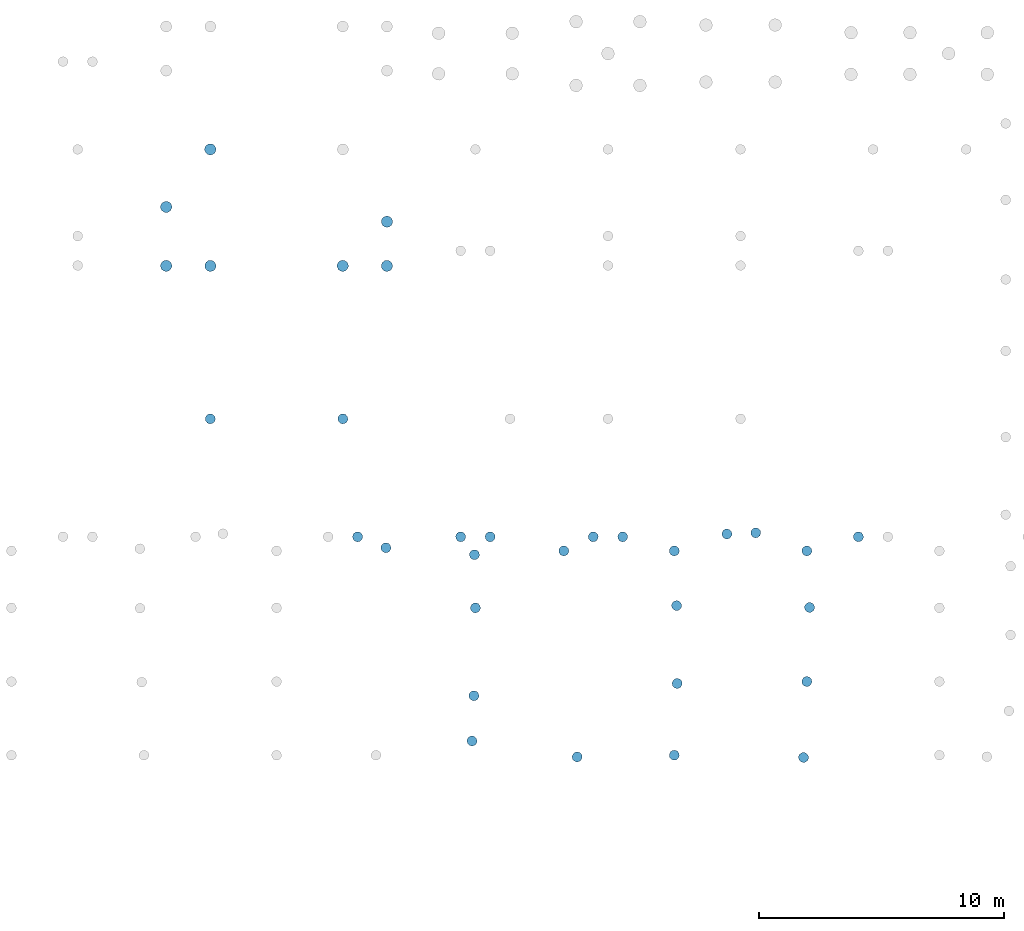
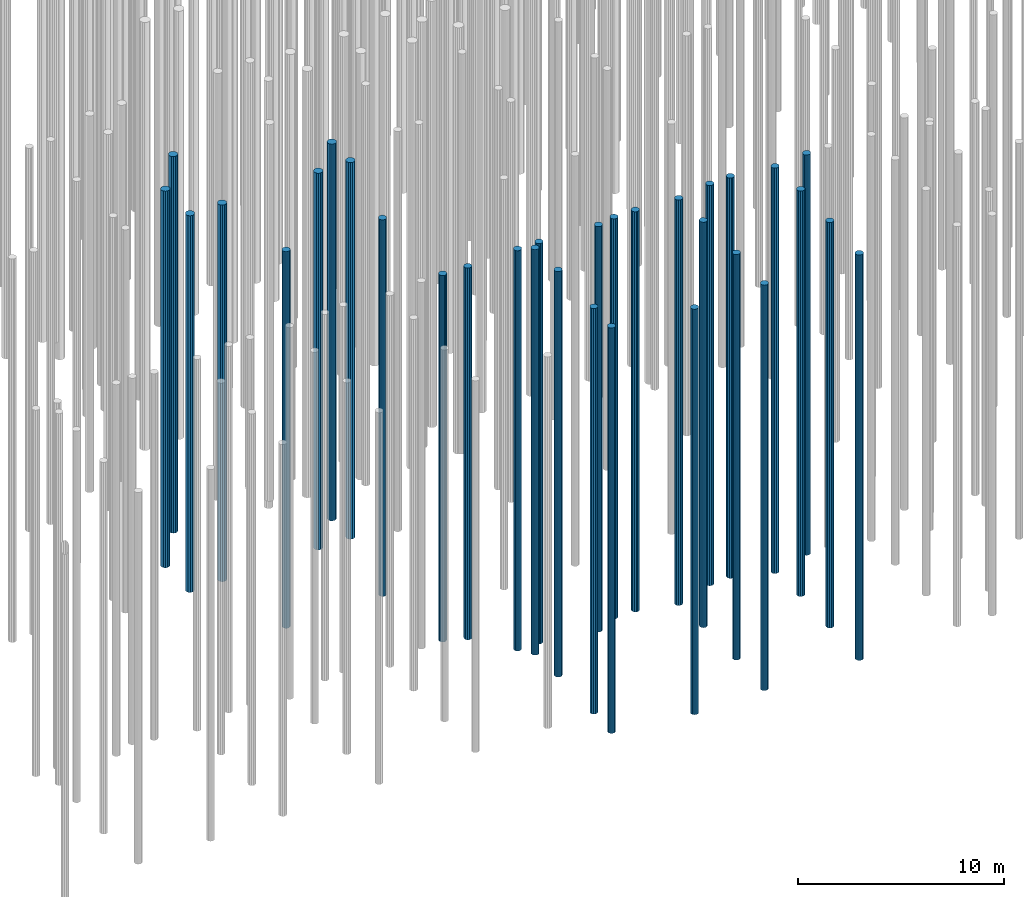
# One storey, part 11 of 20: 32 piles.
"""IFC2X3 building model written with IfcOpenShell, lengths in millimetres."""

from ifc_helpers import new_model, entity, si_unit, converted_unit, derived_unit, direction, frame, origin, place, context, subcontext, project, spatial, polyline, outline, extrude, material, element, save


model = new_model("IFC2X3")

# Units and contexts
model_context = context("Model", 3, precision=0.01, world=origin(), true_north=direction((6.12303176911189e-17, 1.0)))
body_context = subcontext(model_context, "Body", "Model", "MODEL_VIEW")
ifc_project = project(units=[si_unit("LENGTHUNIT", "METRE", prefix="MILLI"), si_unit("AREAUNIT", "SQUARE_METRE"), si_unit("VOLUMEUNIT", "CUBIC_METRE"), converted_unit("PLANEANGLEUNIT", "DEGREE", entity("IfcRatioMeasure", 0.0174532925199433), si_unit("PLANEANGLEUNIT", "RADIAN"), dimensions=[0, 0, 0, 0, 0, 0, 0]), si_unit("MASSUNIT", "GRAM", prefix="KILO"), derived_unit("MASSDENSITYUNIT", [(si_unit("MASSUNIT", "GRAM", prefix="KILO"), 1), (si_unit("LENGTHUNIT", "METRE"), -3)]), si_unit("TIMEUNIT", "SECOND"), si_unit("FREQUENCYUNIT", "HERTZ"), si_unit("THERMODYNAMICTEMPERATUREUNIT", "DEGREE_CELSIUS"), derived_unit("THERMALTRANSMITTANCEUNIT", [(si_unit("MASSUNIT", "GRAM", prefix="KILO"), 1), (si_unit("THERMODYNAMICTEMPERATUREUNIT", "KELVIN"), -1), (si_unit("TIMEUNIT", "SECOND"), -3)]), derived_unit("VOLUMETRICFLOWRATEUNIT", [(si_unit("LENGTHUNIT", "METRE"), 3), (si_unit("TIMEUNIT", "SECOND"), -1)]), si_unit("ELECTRICCURRENTUNIT", "AMPERE"), si_unit("ELECTRICVOLTAGEUNIT", "VOLT"), si_unit("POWERUNIT", "WATT"), si_unit("FORCEUNIT", "NEWTON", prefix="KILO"), si_unit("ILLUMINANCEUNIT", "LUX"), si_unit("LUMINOUSFLUXUNIT", "LUMEN"), si_unit("LUMINOUSINTENSITYUNIT", "CANDELA"), derived_unit("USERDEFINED", [(si_unit("MASSUNIT", "GRAM", prefix="KILO"), -1), (si_unit("LENGTHUNIT", "METRE"), -2), (si_unit("TIMEUNIT", "SECOND"), 3), (si_unit("LUMINOUSFLUXUNIT", "LUMEN"), 1)]), derived_unit("LINEARVELOCITYUNIT", [(si_unit("LENGTHUNIT", "METRE"), 1), (si_unit("TIMEUNIT", "SECOND"), -1)]), si_unit("PRESSUREUNIT", "PASCAL"), derived_unit("USERDEFINED", [(si_unit("LENGTHUNIT", "METRE"), -2), (si_unit("MASSUNIT", "GRAM", prefix="KILO"), 1), (si_unit("TIMEUNIT", "SECOND"), -2)])], contexts=[model_context])

# Site, building, storey
site_placement = place(None, origin())
site = spatial("IfcSite", under=ifc_project, at=site_placement, Name="Default", CompositionType="ELEMENT")
building_placement = place(site_placement, origin())
building = spatial("IfcBuilding", under=site, at=building_placement, Name="niet gebruiken", CompositionType="ELEMENT")
storey_placement = place(building_placement, frame((0.0, 0.0, -4000.0)))
storey = spatial("IfcBuildingStorey", under=building, at=storey_placement, Name="Level t.b.v. palenplan", CompositionType="ELEMENT", Elevation=-4000.0)

# Piles
ifc_material = material(Name="NLRS_f2_beton ihwg")
pile_1_placement = place(storey_placement, origin())
element("IfcPile", 1, at=pile_1_placement, inside=storey, material=ifc_material, Name="NLRS_17.12_SFO_TLB_funderingspaal grondverdringend_gen:Fundex_r410/500", ObjectType="NLRS_17.12_SFO_TLB_funderingspaal grondverdringend_gen:Fundex_r410/500", context=body_context, shape_type="SweptSolid", body=[
    extrude(outline(polyline([(-49.0597111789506, -199.043072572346), (49.0597111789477, -199.043072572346), (135.940144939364, -153.44470337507), (191.678329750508, -72.6940018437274), (203.505319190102, 24.7100194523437), (168.711692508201, 116.453273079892), (95.2682502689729, 181.518485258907), (49.0597111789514, 199.043072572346), (-49.059711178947, 199.043072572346), (-135.940144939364, 153.44470337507), (-191.678329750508, 72.6940018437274), (-203.505319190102, -24.7100194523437), (-168.711692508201, -116.453273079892), (-95.2682502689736, -181.518485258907), (-49.0597111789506, -199.043072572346)])), frame((80860.4417648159, 878.881426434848, -21100.0), z_axis=(0.0, 0.0, 1.0), x_axis=(0.239315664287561, -0.970941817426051, 0.0)), (0.0, 0.0, 1.0), 24028.0),
])
pile_2_placement = place(storey_placement, origin())
element("IfcPile", 2, at=pile_2_placement, inside=storey, material=ifc_material, Name="NLRS_17.12_SFO_TLB_funderingspaal grondverdringend_gen:Fundex_r410/500", ObjectType="NLRS_17.12_SFO_TLB_funderingspaal grondverdringend_gen:Fundex_r410/500", context=body_context, shape_type="SweptSolid", body=[
    extrude(outline(polyline([(-49.0597111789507, -199.043072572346), (49.0597111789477, -199.043072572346), (135.940144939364, -153.44470337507), (191.678329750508, -72.6940018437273), (203.505319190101, 24.7100194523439), (168.711692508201, 116.453273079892), (95.2682502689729, 181.518485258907), (49.0597111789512, 199.043072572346), (-49.0597111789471, 199.043072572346), (-135.940144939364, 153.44470337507), (-191.678329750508, 72.6940018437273), (-203.505319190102, -24.7100194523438), (-168.711692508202, -116.453273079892), (-95.2682502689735, -181.518485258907), (-49.0597111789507, -199.043072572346)])), frame((85143.7061185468, 229.846462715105, -21100.0), z_axis=(0.0, 0.0, 1.0), x_axis=(0.239315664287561, -0.970941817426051, 0.0)), (0.0, 0.0, 1.0), 24028.0),
])
pile_3_placement = place(storey_placement, origin())
element("IfcPile", 3, at=pile_3_placement, inside=storey, material=ifc_material, Name="NLRS_17.12_SFO_TLB_funderingspaal grondverdringend_gen:Fundex_r410/500", ObjectType="NLRS_17.12_SFO_TLB_funderingspaal grondverdringend_gen:Fundex_r410/500", context=body_context, shape_type="SweptSolid", body=[
    extrude(outline(polyline([(-49.0597111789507, -199.043072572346), (49.0597111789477, -199.043072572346), (135.940144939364, -153.44470337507), (191.678329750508, -72.6940018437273), (203.505319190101, 24.7100194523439), (168.711692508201, 116.453273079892), (95.2682502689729, 181.518485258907), (49.0597111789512, 199.043072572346), (-49.0597111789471, 199.043072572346), (-135.940144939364, 153.44470337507), (-191.678329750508, 72.6940018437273), (-203.505319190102, -24.7100194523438), (-168.711692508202, -116.453273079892), (-95.2682502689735, -181.518485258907), (-49.0597111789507, -199.043072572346)])), frame((89100.0, 300.0, -21100.0), z_axis=(0.0, 0.0, 1.0), x_axis=(0.239315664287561, -0.970941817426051, 0.0)), (0.0, 0.0, 1.0), 24028.0),
])
pile_4_placement = place(storey_placement, origin())
element("IfcPile", 4, at=pile_4_placement, inside=storey, material=ifc_material, Name="NLRS_17.12_SFO_TLB_funderingspaal grondverdringend_gen:Fundex_r410/500", ObjectType="NLRS_17.12_SFO_TLB_funderingspaal grondverdringend_gen:Fundex_r410/500", context=body_context, shape_type="SweptSolid", body=[
    extrude(outline(polyline([(-49.0597111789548, -199.043072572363), (49.0597111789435, -199.043072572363), (135.94014493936, -153.444703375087), (191.678329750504, -72.6940018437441), (203.505319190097, 24.7100194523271), (168.711692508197, 116.453273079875), (95.2682502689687, 181.518485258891), (49.0597111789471, 199.043072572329), (-49.0597111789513, 199.043072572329), (-135.940144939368, 153.444703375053), (-191.678329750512, 72.6940018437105), (-203.505319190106, -24.7100194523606), (-168.711692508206, -116.453273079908), (-95.2682502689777, -181.518485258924), (-49.0597111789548, -199.043072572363)])), frame((94365.3624429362, 205.615963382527, -21100.0), z_axis=(0.0, 0.0, 1.0), x_axis=(0.239315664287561, -0.970941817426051, 0.0)), (0.0, 0.0, 1.0), 24028.0),
])
pile_5_placement = place(storey_placement, origin())
element("IfcPile", 5, at=pile_5_placement, inside=storey, material=ifc_material, Name="NLRS_17.12_SFO_TLB_funderingspaal grondverdringend_gen:Fundex_r410/500", ObjectType="NLRS_17.12_SFO_TLB_funderingspaal grondverdringend_gen:Fundex_r410/500", context=body_context, shape_type="SweptSolid", body=[
    extrude(outline(polyline([(-49.059711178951, -199.043072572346), (49.059711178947, -199.043072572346), (135.940144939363, -153.44470337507), (191.678329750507, -72.6940018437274), (203.505319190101, 24.7100194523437), (168.711692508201, 116.453273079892), (95.2682502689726, 181.518485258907), (49.059711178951, 199.043072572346), (-49.0597111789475, 199.043072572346), (-135.940144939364, 153.44470337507), (-191.678329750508, 72.6940018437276), (-203.505319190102, -24.7100194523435), (-168.711692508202, -116.453273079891), (-95.2682502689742, -181.518485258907), (-49.059711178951, -199.043072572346)])), frame((80938.6666666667, 2719.56666666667, -21100.0), z_axis=(0.0, 0.0, 1.0), x_axis=(0.239315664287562, -0.970941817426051, 0.0)), (0.0, 0.0, 1.0), 24028.0),
])
pile_6_placement = place(storey_placement, origin())
element("IfcPile", 6, at=pile_6_placement, inside=storey, material=ifc_material, Name="NLRS_17.12_SFO_TLB_funderingspaal grondverdringend_gen:Fundex_r410/500", ObjectType="NLRS_17.12_SFO_TLB_funderingspaal grondverdringend_gen:Fundex_r410/500", context=body_context, shape_type="SweptSolid", body=[
    extrude(outline(polyline([(-49.0597111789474, -199.043072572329), (49.0597111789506, -199.043072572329), (135.940144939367, -153.444703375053), (191.678329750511, -72.6940018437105), (203.505319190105, 24.7100194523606), (168.711692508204, 116.453273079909), (95.2682502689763, 181.518485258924), (49.0597111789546, 199.043072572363), (-49.0597111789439, 199.043072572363), (-135.94014493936, 153.444703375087), (-191.678329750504, 72.6940018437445), (-203.505319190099, -24.7100194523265), (-168.711692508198, -116.453273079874), (-95.2682502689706, -181.51848525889), (-49.0597111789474, -199.043072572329)])), frame((89217.7335670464, 3221.1560035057, -21100.0), z_axis=(0.0, 0.0, 1.0), x_axis=(0.239315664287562, -0.970941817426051, 0.0)), (0.0, 0.0, 1.0), 24028.0),
])
pile_7_placement = place(storey_placement, origin())
element("IfcPile", 7, at=pile_7_placement, inside=storey, material=ifc_material, Name="NLRS_17.12_SFO_TLB_funderingspaal grondverdringend_gen:Fundex_r410/500", ObjectType="NLRS_17.12_SFO_TLB_funderingspaal grondverdringend_gen:Fundex_r410/500", context=body_context, shape_type="SweptSolid", body=[
    extrude(outline(polyline([(-49.059711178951, -199.043072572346), (49.059711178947, -199.043072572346), (135.940144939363, -153.44470337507), (191.678329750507, -72.6940018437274), (203.505319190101, 24.7100194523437), (168.711692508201, 116.453273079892), (95.2682502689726, 181.518485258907), (49.059711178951, 199.043072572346), (-49.0597111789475, 199.043072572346), (-135.940144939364, 153.44470337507), (-191.678329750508, 72.6940018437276), (-203.505319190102, -24.7100194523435), (-168.711692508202, -116.453273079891), (-95.2682502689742, -181.518485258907), (-49.059711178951, -199.043072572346)])), frame((94500.0, 3300.0, -21100.0), z_axis=(0.0, 0.0, 1.0), x_axis=(0.239315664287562, -0.970941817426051, 0.0)), (0.0, 0.0, 1.0), 24028.0),
])
pile_8_placement = place(storey_placement, origin())
element("IfcPile", 8, at=pile_8_placement, inside=storey, material=ifc_material, Name="NLRS_17.12_SFO_TLB_funderingspaal grondverdringend_gen:Fundex_r410/500", ObjectType="NLRS_17.12_SFO_TLB_funderingspaal grondverdringend_gen:Fundex_r410/500", context=body_context, shape_type="SweptSolid", body=[
    extrude(outline(polyline([(-49.0597111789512, -199.043072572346), (49.0597111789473, -199.043072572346), (135.940144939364, -153.44470337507), (191.678329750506, -72.694001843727), (203.5053191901, 24.7100194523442), (168.711692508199, 116.453273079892), (95.2682502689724, 181.518485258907), (49.0597111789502, 199.043072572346), (-49.0597111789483, 199.043072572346), (-135.940144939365, 153.44470337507), (-191.678329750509, 72.6940018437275), (-203.505319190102, -24.7100194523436), (-168.711692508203, -116.453273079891), (-95.2682502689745, -181.518485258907), (-49.0597111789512, -199.043072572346)])), frame((81000.0, 6300.0, -21100.0), z_axis=(0.0, 0.0, 1.0), x_axis=(0.239315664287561, -0.970941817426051, 0.0)), (0.0, 0.0, 1.0), 24028.0),
])
pile_9_placement = place(storey_placement, origin())
element("IfcPile", 9, at=pile_9_placement, inside=storey, material=ifc_material, Name="NLRS_17.12_SFO_TLB_funderingspaal grondverdringend_gen:Fundex_r410/500", ObjectType="NLRS_17.12_SFO_TLB_funderingspaal grondverdringend_gen:Fundex_r410/500", context=body_context, shape_type="SweptSolid", body=[
    extrude(outline(polyline([(-49.0597111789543, -199.043072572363), (49.0597111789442, -199.043072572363), (135.94014493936, -153.444703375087), (191.678329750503, -72.6940018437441), (203.505319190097, 24.7100194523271), (168.711692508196, 116.453273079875), (95.2682502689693, 181.51848525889), (49.0597111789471, 199.043072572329), (-49.0597111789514, 199.043072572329), (-135.940144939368, 153.444703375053), (-191.678329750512, 72.6940018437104), (-203.505319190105, -24.7100194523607), (-168.711692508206, -116.453273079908), (-95.2682502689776, -181.518485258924), (-49.0597111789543, -199.043072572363)])), frame((89194.9933739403, 6392.86499300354, -21100.0), z_axis=(0.0, 0.0, 1.0), x_axis=(0.239315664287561, -0.970941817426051, 0.0)), (0.0, 0.0, 1.0), 24028.0),
])
pile_10_placement = place(storey_placement, origin())
element("IfcPile", 10, at=pile_10_placement, inside=storey, material=ifc_material, Name="NLRS_17.12_SFO_TLB_funderingspaal grondverdringend_gen:Fundex_r410/500", ObjectType="NLRS_17.12_SFO_TLB_funderingspaal grondverdringend_gen:Fundex_r410/500", context=body_context, shape_type="SweptSolid", body=[
    extrude(outline(polyline([(-49.0597111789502, -199.043072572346), (49.0597111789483, -199.043072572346), (135.940144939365, -153.44470337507), (191.678329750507, -72.6940018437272), (203.505319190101, 24.7100194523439), (168.7116925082, 116.453273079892), (95.2682502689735, 181.518485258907), (49.0597111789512, 199.043072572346), (-49.0597111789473, 199.043072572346), (-135.940144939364, 153.44470337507), (-191.678329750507, 72.6940018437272), (-203.505319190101, -24.7100194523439), (-168.711692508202, -116.453273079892), (-95.2682502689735, -181.518485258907), (-49.0597111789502, -199.043072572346)])), frame((94611.7444556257, 6316.73895963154, -21100.0), z_axis=(0.0, 0.0, 1.0), x_axis=(0.239315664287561, -0.970941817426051, 0.0)), (0.0, 0.0, 1.0), 24028.0),
])
pile_11_placement = place(storey_placement, origin())
element("IfcPile", 11, at=pile_11_placement, inside=storey, material=ifc_material, Name="NLRS_17.12_SFO_TLB_funderingspaal grondverdringend_gen:Fundex_r410/500", ObjectType="NLRS_17.12_SFO_TLB_funderingspaal grondverdringend_gen:Fundex_r410/500", context=body_context, shape_type="SweptSolid", body=[
    extrude(outline(polyline([(-49.0597111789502, -199.043072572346), (49.0597111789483, -199.043072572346), (135.940144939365, -153.44470337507), (191.678329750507, -72.6940018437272), (203.505319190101, 24.7100194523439), (168.7116925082, 116.453273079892), (95.2682502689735, 181.518485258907), (49.0597111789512, 199.043072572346), (-49.0597111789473, 199.043072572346), (-135.940144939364, 153.44470337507), (-191.678329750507, 72.6940018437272), (-203.505319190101, -24.7100194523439), (-168.711692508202, -116.453273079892), (-95.2682502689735, -181.518485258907), (-49.0597111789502, -199.043072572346)])), frame((89100.0, 8621.0, -21100.0), z_axis=(0.0, 0.0, 1.0), x_axis=(0.239315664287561, -0.970941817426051, 0.0)), (0.0, 0.0, 1.0), 24028.0),
])
pile_12_placement = place(storey_placement, origin())
element("IfcPile", 12, at=pile_12_placement, inside=storey, material=ifc_material, Name="NLRS_17.12_SFO_TLB_funderingspaal grondverdringend_gen:Fundex_r410/500", ObjectType="NLRS_17.12_SFO_TLB_funderingspaal grondverdringend_gen:Fundex_r410/500", context=body_context, shape_type="SweptSolid", body=[
    extrude(outline(polyline([(-49.0597111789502, -199.043072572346), (49.0597111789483, -199.043072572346), (135.940144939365, -153.44470337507), (191.678329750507, -72.6940018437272), (203.505319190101, 24.7100194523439), (168.7116925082, 116.453273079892), (95.2682502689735, 181.518485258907), (49.0597111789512, 199.043072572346), (-49.0597111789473, 199.043072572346), (-135.940144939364, 153.44470337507), (-191.678329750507, 72.6940018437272), (-203.505319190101, -24.7100194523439), (-168.711692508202, -116.453273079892), (-95.2682502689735, -181.518485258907), (-49.0597111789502, -199.043072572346)])), frame((94500.0, 8621.0, -21100.0), z_axis=(0.0, 0.0, 1.0), x_axis=(0.239315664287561, -0.970941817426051, 0.0)), (0.0, 0.0, 1.0), 24028.0),
])
pile_13_placement = place(storey_placement, origin())
element("IfcPile", 13, at=pile_13_placement, inside=storey, material=ifc_material, Name="NLRS_17.12_SFO_TLB_funderingspaal grondverdringend_gen:Fundex_r410/500", ObjectType="NLRS_17.12_SFO_TLB_funderingspaal grondverdringend_gen:Fundex_r410/500", context=body_context, shape_type="SweptSolid", body=[
    extrude(outline(polyline([(-49.0597111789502, -199.043072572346), (49.0597111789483, -199.043072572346), (135.940144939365, -153.44470337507), (191.678329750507, -72.6940018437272), (203.505319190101, 24.7100194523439), (168.7116925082, 116.453273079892), (95.2682502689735, 181.518485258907), (49.0597111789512, 199.043072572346), (-49.0597111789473, 199.043072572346), (-135.940144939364, 153.44470337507), (-191.678329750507, 72.6940018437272), (-203.505319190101, -24.7100194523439), (-168.711692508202, -116.453273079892), (-95.2682502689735, -181.518485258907), (-49.0597111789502, -199.043072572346)])), frame((80960.0463084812, 8465.78234333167, -21100.0), z_axis=(0.0, 0.0, 1.0), x_axis=(0.239315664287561, -0.970941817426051, 0.0)), (0.0, 0.0, 1.0), 24028.0),
])
pile_14_placement = place(storey_placement, origin())
element("IfcPile", 14, at=pile_14_placement, inside=storey, material=ifc_material, Name="NLRS_17.12_SFO_TLB_funderingspaal grondverdringend_gen:Fundex_r460/560", ObjectType="NLRS_17.12_SFO_TLB_funderingspaal grondverdringend_gen:Fundex_r460/560", context=body_context, shape_type="SweptSolid", body=[
    extrude(outline(polyline([(-25.7518295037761, -228.553808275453), (25.7518295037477, -228.553808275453), (122.367377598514, -194.746565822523), (194.746565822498, -122.367377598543), (228.553808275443, -25.7518295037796), (217.093165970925, 75.9641842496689), (162.634559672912, 162.634559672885), (75.9641842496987, 217.09316597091), (25.7518295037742, 228.553808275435), (-25.7518295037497, 228.553808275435), (-122.367377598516, 194.746565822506), (-194.7465658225, 122.367377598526), (-228.553808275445, 25.7518295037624), (-217.093165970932, -75.9641842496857), (-162.634559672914, -162.634559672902), (-75.9641842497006, -217.093165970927), (-25.7518295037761, -228.553808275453)])), frame((70205.0, 20231.0, -20100.0), z_axis=(0.0, 0.0, 1.0), x_axis=(0.111964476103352, -0.993712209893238, 0.0)), (0.0, 0.0, 1.0), 22320.0),
])
pile_15_placement = place(storey_placement, origin())
element("IfcPile", 15, at=pile_15_placement, inside=storey, material=ifc_material, Name="NLRS_17.12_SFO_TLB_funderingspaal grondverdringend_gen:Fundex_r460/560", ObjectType="NLRS_17.12_SFO_TLB_funderingspaal grondverdringend_gen:Fundex_r460/560", context=body_context, shape_type="SweptSolid", body=[
    extrude(outline(polyline([(-25.7518295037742, -228.553808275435), (25.7518295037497, -228.553808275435), (122.367377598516, -194.746565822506), (194.7465658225, -122.367377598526), (228.553808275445, -25.7518295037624), (217.093165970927, 75.9641842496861), (162.634559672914, 162.634559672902), (75.9641842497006, 217.093165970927), (25.7518295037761, 228.553808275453), (-25.7518295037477, 228.553808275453), (-122.367377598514, 194.746565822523), (-194.746565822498, 122.367377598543), (-228.553808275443, 25.7518295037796), (-217.09316597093, -75.9641842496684), (-162.634559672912, -162.634559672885), (-75.9641842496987, -217.09316597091), (-25.7518295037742, -228.553808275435)])), frame((68405.0, 22631.0, -20100.0), z_axis=(0.0, 0.0, 1.0), x_axis=(0.111964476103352, -0.993712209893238, 0.0)), (0.0, 0.0, 1.0), 22320.0),
])
pile_16_placement = place(storey_placement, origin())
element("IfcPile", 16, at=pile_16_placement, inside=storey, material=ifc_material, Name="NLRS_17.12_SFO_TLB_funderingspaal grondverdringend_gen:Fundex_r460/560", ObjectType="NLRS_17.12_SFO_TLB_funderingspaal grondverdringend_gen:Fundex_r460/560", context=body_context, shape_type="SweptSolid", body=[
    extrude(outline(polyline([(-25.7518295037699, -228.553808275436), (25.751829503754, -228.553808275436), (122.367377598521, -194.746565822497), (194.7465658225, -122.367377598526), (228.553808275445, -25.7518295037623), (217.093165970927, 75.9641842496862), (162.634559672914, 162.634559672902), (75.9641842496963, 217.093165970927), (25.7518295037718, 228.553808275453), (-25.751829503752, 228.553808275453), (-122.367377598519, 194.746565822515), (-194.746565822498, 122.367377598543), (-228.553808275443, 25.7518295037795), (-217.093165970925, -75.964184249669), (-162.634559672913, -162.634559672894), (-75.9641842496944, -217.09316597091), (-25.7518295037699, -228.553808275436)])), frame((75595.0, 20231.0, -20100.0), z_axis=(0.0, 0.0, 1.0), x_axis=(0.111964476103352, -0.993712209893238, 0.0)), (0.0, 0.0, 1.0), 22320.0),
])
pile_17_placement = place(storey_placement, origin())
element("IfcPile", 17, at=pile_17_placement, inside=storey, material=ifc_material, Name="NLRS_17.12_SFO_TLB_funderingspaal grondverdringend_gen:Fundex_r460/560", ObjectType="NLRS_17.12_SFO_TLB_funderingspaal grondverdringend_gen:Fundex_r460/560", context=body_context, shape_type="SweptSolid", body=[
    extrude(outline(polyline([(-25.7518295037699, -228.553808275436), (25.751829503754, -228.553808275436), (122.367377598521, -194.746565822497), (194.7465658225, -122.367377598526), (228.553808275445, -25.7518295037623), (217.093165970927, 75.9641842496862), (162.634559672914, 162.634559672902), (75.9641842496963, 217.093165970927), (25.7518295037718, 228.553808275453), (-25.751829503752, 228.553808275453), (-122.367377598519, 194.746565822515), (-194.746565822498, 122.367377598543), (-228.553808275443, 25.7518295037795), (-217.093165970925, -75.964184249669), (-162.634559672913, -162.634559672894), (-75.9641842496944, -217.09316597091), (-25.7518295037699, -228.553808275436)])), frame((77395.0, 22031.0, -20100.0), z_axis=(0.0, 0.0, 1.0), x_axis=(0.111964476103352, -0.993712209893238, 0.0)), (0.0, 0.0, 1.0), 22320.0),
])
pile_18_placement = place(storey_placement, origin())
element("IfcPile", 18, at=pile_18_placement, inside=storey, material=ifc_material, Name="NLRS_17.12_SFO_TLB_funderingspaal grondverdringend_gen:Fundex_r410/500", ObjectType="NLRS_17.12_SFO_TLB_funderingspaal grondverdringend_gen:Fundex_r410/500", context=body_context, shape_type="SweptSolid", body=[
    extrude(outline(polyline([(-49.0597111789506, -199.043072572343), (49.0597111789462, -199.043072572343), (135.94014493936, -153.444703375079), (191.678329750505, -72.694001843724), (203.505319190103, 24.7100194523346), (168.711692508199, 116.453273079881), (95.2682502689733, 181.518485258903), (49.0597111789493, 199.043072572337), (-49.0597111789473, 199.043072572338), (-135.940144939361, 153.444703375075), (-191.678329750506, 72.6940018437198), (-203.505319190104, -24.7100194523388), (-168.7116925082, -116.453273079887), (-95.2682502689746, -181.518485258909), (-49.0597111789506, -199.043072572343)])), frame((76200.0, 9196.0, -19100.0), z_axis=(0.0, 0.0, 1.0), x_axis=(-0.970941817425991, -0.239315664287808, 0.0)), (0.0, 0.0, 1.0), 21720.0),
])
pile_19_placement = place(storey_placement, origin())
element("IfcPile", 19, at=pile_19_placement, inside=storey, material=ifc_material, Name="NLRS_17.12_SFO_TLB_funderingspaal grondverdringend_gen:Fundex_r410/500", ObjectType="NLRS_17.12_SFO_TLB_funderingspaal grondverdringend_gen:Fundex_r410/500", context=body_context, shape_type="SweptSolid", body=[
    extrude(outline(polyline([(-49.0597111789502, -199.043072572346), (49.0597111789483, -199.043072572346), (135.940144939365, -153.44470337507), (191.678329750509, -72.6940018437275), (203.505319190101, 24.7100194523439), (168.7116925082, 116.453273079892), (95.2682502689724, 181.518485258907), (49.0597111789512, 199.043072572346), (-49.0597111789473, 199.043072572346), (-135.940144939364, 153.44470337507), (-191.678329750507, 72.6940018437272), (-203.505319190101, -24.7100194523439), (-168.7116925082, -116.453273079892), (-95.2682502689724, -181.518485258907), (-49.0597111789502, -199.043072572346)])), frame((80400.0, 9196.0, -21100.0), z_axis=(0.0, 0.0, 1.0), x_axis=(0.239315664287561, -0.970941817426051, 0.0)), (0.0, 0.0, 1.0), 23720.0),
])
pile_20_placement = place(storey_placement, origin())
element("IfcPile", 20, at=pile_20_placement, inside=storey, material=ifc_material, Name="NLRS_17.12_SFO_TLB_funderingspaal grondverdringend_gen:Fundex_r410/500", ObjectType="NLRS_17.12_SFO_TLB_funderingspaal grondverdringend_gen:Fundex_r410/500", context=body_context, shape_type="SweptSolid", body=[
    extrude(outline(polyline([(-49.0597111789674, -199.043072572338), (49.0597111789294, -199.043072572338), (135.940144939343, -153.444703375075), (191.678329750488, -72.6940018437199), (203.505319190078, 24.7100194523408), (168.711692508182, 116.453273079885), (95.2682502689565, 181.518485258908), (49.0597111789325, 199.043072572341), (-49.0597111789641, 199.043072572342), (-135.940144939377, 153.444703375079), (-191.678329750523, 72.694001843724), (-203.505319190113, -24.7100194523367), (-168.711692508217, -116.453273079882), (-95.2682502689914, -181.518485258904), (-49.0597111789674, -199.043072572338)])), frame((81600.0, 9196.0, -21100.0), z_axis=(0.0, 0.0, 1.0), x_axis=(-0.970941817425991, -0.239315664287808, 0.0)), (0.0, 0.0, 1.0), 23720.0),
])
pile_21_placement = place(storey_placement, origin())
element("IfcPile", 21, at=pile_21_placement, inside=storey, material=ifc_material, Name="NLRS_17.12_SFO_TLB_funderingspaal grondverdringend_gen:Fundex_r410/500", ObjectType="NLRS_17.12_SFO_TLB_funderingspaal grondverdringend_gen:Fundex_r410/500", context=body_context, shape_type="SweptSolid", body=[
    extrude(outline(polyline([(-49.0597111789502, -199.043072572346), (49.0597111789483, -199.043072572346), (135.940144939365, -153.44470337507), (191.678329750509, -72.6940018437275), (203.505319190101, 24.7100194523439), (168.7116925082, 116.453273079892), (95.2682502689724, 181.518485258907), (49.0597111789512, 199.043072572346), (-49.0597111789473, 199.043072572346), (-135.940144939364, 153.44470337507), (-191.678329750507, 72.6940018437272), (-203.505319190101, -24.7100194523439), (-168.7116925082, -116.453273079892), (-95.2682502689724, -181.518485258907), (-49.0597111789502, -199.043072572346)])), frame((85800.0, 9196.0, -21100.0), z_axis=(0.0, 0.0, 1.0), x_axis=(0.239315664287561, -0.970941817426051, 0.0)), (0.0, 0.0, 1.0), 23720.0),
])
pile_22_placement = place(storey_placement, origin())
element("IfcPile", 22, at=pile_22_placement, inside=storey, material=ifc_material, Name="NLRS_17.12_SFO_TLB_funderingspaal grondverdringend_gen:Fundex_r410/500", ObjectType="NLRS_17.12_SFO_TLB_funderingspaal grondverdringend_gen:Fundex_r410/500", context=body_context, shape_type="SweptSolid", body=[
    extrude(outline(polyline([(-49.0597111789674, -199.043072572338), (49.0597111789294, -199.043072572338), (135.940144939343, -153.444703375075), (191.678329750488, -72.6940018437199), (203.505319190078, 24.7100194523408), (168.711692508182, 116.453273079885), (95.2682502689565, 181.518485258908), (49.0597111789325, 199.043072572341), (-49.0597111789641, 199.043072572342), (-135.940144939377, 153.444703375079), (-191.678329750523, 72.694001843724), (-203.505319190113, -24.7100194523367), (-168.711692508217, -116.453273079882), (-95.2682502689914, -181.518485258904), (-49.0597111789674, -199.043072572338)])), frame((87000.0, 9196.0, -21100.0), z_axis=(0.0, 0.0, 1.0), x_axis=(-0.970941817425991, -0.239315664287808, 0.0)), (0.0, 0.0, 1.0), 23720.0),
])
pile_23_placement = place(storey_placement, origin())
element("IfcPile", 23, at=pile_23_placement, inside=storey, material=ifc_material, Name="NLRS_17.12_SFO_TLB_funderingspaal grondverdringend_gen:Fundex_r410/500", ObjectType="NLRS_17.12_SFO_TLB_funderingspaal grondverdringend_gen:Fundex_r410/500", context=body_context, shape_type="SweptSolid", body=[
    extrude(outline(polyline([(-49.0597111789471, -199.043072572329), (49.0597111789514, -199.043072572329), (135.940144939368, -153.444703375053), (191.678329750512, -72.6940018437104), (203.505319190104, 24.710019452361), (168.711692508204, 116.453273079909), (95.2682502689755, 181.518485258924), (49.0597111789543, 199.043072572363), (-49.0597111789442, 199.043072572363), (-135.94014493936, 153.444703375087), (-191.678329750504, 72.6940018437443), (-203.505319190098, -24.7100194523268), (-168.711692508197, -116.453273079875), (-95.2682502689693, -181.51848525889), (-49.0597111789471, -199.043072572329)])), frame((91243.9810298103, 9310.94308943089, -21100.0), z_axis=(0.0, 0.0, 1.0), x_axis=(0.239315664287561, -0.970941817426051, 0.0)), (0.0, 0.0, 1.0), 23720.0),
])
pile_24_placement = place(storey_placement, origin())
element("IfcPile", 24, at=pile_24_placement, inside=storey, material=ifc_material, Name="NLRS_17.12_SFO_TLB_funderingspaal grondverdringend_gen:Fundex_r410/500", ObjectType="NLRS_17.12_SFO_TLB_funderingspaal grondverdringend_gen:Fundex_r410/500", context=body_context, shape_type="SweptSolid", body=[
    extrude(outline(polyline([(-49.0597111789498, -199.043072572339), (49.059711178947, -199.043072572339), (135.94014493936, -153.444703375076), (191.678329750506, -72.6940018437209), (203.505319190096, 24.7100194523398), (168.7116925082, 116.453273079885), (95.2682502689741, 181.518485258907), (49.0597111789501, 199.04307257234), (-49.0597111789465, 199.043072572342), (-135.94014493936, 153.444703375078), (-191.678329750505, 72.694001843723), (-203.505319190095, -24.7100194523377), (-168.7116925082, -116.453273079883), (-95.2682502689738, -181.518485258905), (-49.0597111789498, -199.043072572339)])), frame((92419.1585796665, 9358.70686788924, -21100.0), z_axis=(0.0, 0.0, 1.0), x_axis=(-0.970941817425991, -0.239315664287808, 0.0)), (0.0, 0.0, 1.0), 23720.0),
])
pile_25_placement = place(storey_placement, origin())
element("IfcPile", 25, at=pile_25_placement, inside=storey, material=ifc_material, Name="NLRS_17.12_SFO_TLB_funderingspaal grondverdringend_gen:Fundex_r410/500", ObjectType="NLRS_17.12_SFO_TLB_funderingspaal grondverdringend_gen:Fundex_r410/500", context=body_context, shape_type="SweptSolid", body=[
    extrude(outline(polyline([(-49.0597111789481, -199.043072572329), (49.0597111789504, -199.043072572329), (135.940144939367, -153.444703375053), (191.67832975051, -72.6940018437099), (203.505319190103, 24.7100194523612), (168.711692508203, 116.453273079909), (95.2682502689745, 181.518485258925), (49.0597111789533, 199.043072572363), (-49.0597111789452, 199.043072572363), (-135.940144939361, 153.444703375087), (-191.678329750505, 72.6940018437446), (-203.505319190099, -24.7100194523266), (-168.711692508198, -116.453273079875), (-95.2682502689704, -181.51848525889), (-49.0597111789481, -199.043072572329)])), frame((96600.0, 9196.0, -21100.0), z_axis=(0.0, 0.0, 1.0), x_axis=(0.239315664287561, -0.970941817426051, 0.0)), (0.0, 0.0, 1.0), 23720.0),
])
pile_26_placement = place(storey_placement, origin())
element("IfcPile", 26, at=pile_26_placement, inside=storey, material=ifc_material, Name="NLRS_17.12_SFO_TLB_funderingspaal grondverdringend_gen:Fundex_r410/500", ObjectType="NLRS_17.12_SFO_TLB_funderingspaal grondverdringend_gen:Fundex_r410/500", context=body_context, shape_type="SweptSolid", body=[
    extrude(outline(polyline([(-49.0597111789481, -199.043072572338), (49.0597111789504, -199.043072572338), (135.940144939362, -153.444703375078), (191.67832975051, -72.6940018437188), (203.505319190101, 24.7100194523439), (168.711692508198, 116.453273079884), (95.2682502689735, 181.518485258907), (49.0597111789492, 199.043072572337), (-49.0597111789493, 199.043072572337), (-135.940144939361, 153.444703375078), (-191.67832975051, 72.6940018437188), (-203.505319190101, -24.7100194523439), (-168.711692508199, -116.453273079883), (-95.2682502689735, -181.518485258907), (-49.0597111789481, -199.043072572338)])), frame((77352.7717121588, 8747.54342431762, -19100.0), z_axis=(0.0, 0.0, 1.0), x_axis=(0.239315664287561, -0.970941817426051, 0.0)), (0.0, 0.0, 1.0), 22028.0),
])
pile_27_placement = place(storey_placement, origin())
element("IfcPile", 27, at=pile_27_placement, inside=storey, material=ifc_material, Name="NLRS_17.12_SFO_TLB_funderingspaal grondverdringend_gen:Fundex_r410/500", ObjectType="NLRS_17.12_SFO_TLB_funderingspaal grondverdringend_gen:Fundex_r410/500", context=body_context, shape_type="SweptSolid", body=[
    extrude(outline(polyline([(-49.0597111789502, -199.043072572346), (49.0597111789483, -199.043072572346), (135.940144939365, -153.44470337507), (191.678329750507, -72.6940018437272), (203.505319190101, 24.7100194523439), (168.7116925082, 116.453273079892), (95.2682502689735, 181.518485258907), (49.0597111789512, 199.043072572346), (-49.0597111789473, 199.043072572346), (-135.940144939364, 153.44470337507), (-191.678329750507, 72.6940018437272), (-203.505319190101, -24.7100194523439), (-168.711692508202, -116.453273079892), (-95.2682502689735, -181.518485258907), (-49.0597111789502, -199.043072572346)])), frame((84600.0, 8621.0, -21100.0), z_axis=(0.0, 0.0, 1.0), x_axis=(0.239315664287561, -0.970941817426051, 0.0)), (0.0, 0.0, 1.0), 24028.0),
])
pile_28_placement = place(storey_placement, origin())
element("IfcPile", 28, at=pile_28_placement, inside=storey, material=ifc_material, Name="NLRS_17.12_SFO_TLB_funderingspaal grondverdringend_gen:Fundex_r410/500", ObjectType="NLRS_17.12_SFO_TLB_funderingspaal grondverdringend_gen:Fundex_r410/500", context=body_context, shape_type="SweptSolid", body=[
    extrude(outline(polyline([(-49.0597111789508, -199.043072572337), (49.0597111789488, -199.043072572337), (135.94014493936, -153.444703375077), (191.678329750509, -72.694001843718), (203.505319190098, 24.7100194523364), (168.711692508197, 116.453273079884), (95.2682502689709, 181.518485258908), (49.0597111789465, 199.043072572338), (-49.0597111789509, 199.043072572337), (-135.940144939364, 153.444703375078), (-191.678329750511, 72.6940018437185), (-203.505319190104, -24.7100194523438), (-168.711692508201, -116.453273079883), (-95.2682502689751, -181.518485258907), (-49.0597111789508, -199.043072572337)])), frame((70200.0, 14001.0, -19100.0), z_axis=(0.0, 0.0, 1.0), x_axis=(0.239315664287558, -0.970941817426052, 0.0)), (0.0, 0.0, 1.0), 22320.0),
])
pile_29_placement = place(storey_placement, origin())
element("IfcPile", 29, at=pile_29_placement, inside=storey, material=ifc_material, Name="NLRS_17.12_SFO_TLB_funderingspaal grondverdringend_gen:Fundex_r410/500", ObjectType="NLRS_17.12_SFO_TLB_funderingspaal grondverdringend_gen:Fundex_r410/500", context=body_context, shape_type="SweptSolid", body=[
    extrude(outline(polyline([(-49.0597111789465, -199.043072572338), (49.059711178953, -199.043072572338), (135.940144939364, -153.444703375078), (191.678329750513, -72.694001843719), (203.505319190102, 24.7100194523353), (168.711692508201, 116.453273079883), (95.2682502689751, 181.518485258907), (49.0597111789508, 199.043072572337), (-49.0597111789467, 199.043072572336), (-135.94014493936, 153.444703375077), (-191.678329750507, 72.6940018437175), (-203.5053191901, -24.7100194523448), (-168.711692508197, -116.453273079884), (-95.2682502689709, -181.518485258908), (-49.0597111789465, -199.043072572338)])), frame((75600.0, 14001.0, -19100.0), z_axis=(0.0, 0.0, 1.0), x_axis=(0.239315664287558, -0.970941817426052, 0.0)), (0.0, 0.0, 1.0), 22320.0),
])
pile_30_placement = place(storey_placement, origin())
element("IfcPile", 30, at=pile_30_placement, inside=storey, material=ifc_material, Name="NLRS_17.12_SFO_TLB_funderingspaal grondverdringend_gen:Fundex_r460/560", ObjectType="NLRS_17.12_SFO_TLB_funderingspaal grondverdringend_gen:Fundex_r460/560", context=body_context, shape_type="SweptSolid", body=[
    extrude(outline(polyline([(-25.7518295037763, -228.553808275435), (25.7518295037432, -228.553808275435), (122.367377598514, -194.746565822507), (194.746565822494, -122.367377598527), (228.553808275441, -25.7518295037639), (217.093165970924, 75.9641842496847), (162.634559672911, 162.634559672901), (75.9641842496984, 217.093165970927), (25.7518295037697, 228.553808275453), (-25.7518295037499, 228.553808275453), (-122.367377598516, 194.746565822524), (-194.746565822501, 122.367377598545), (-228.553808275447, 25.7518295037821), (-217.09316597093, -75.9641842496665), (-162.634559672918, -162.634559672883), (-75.964184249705, -217.093165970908), (-25.7518295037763, -228.553808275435)])), frame((70200.0, 24976.0, -20100.0), z_axis=(0.0, 0.0, 1.0), x_axis=(0.111964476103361, -0.993712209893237, 0.0)), (0.0, 0.0, 1.0), 22320.0),
])
pile_31_placement = place(storey_placement, origin())
element("IfcPile", 31, at=pile_31_placement, inside=storey, material=ifc_material, Name="NLRS_17.12_SFO_TLB_funderingspaal grondverdringend_gen:Fundex_r460/560", ObjectType="NLRS_17.12_SFO_TLB_funderingspaal grondverdringend_gen:Fundex_r460/560", context=body_context, shape_type="SweptSolid", body=[
    extrude(outline(polyline([(-25.7518295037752, -228.553808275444), (25.7518295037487, -228.553808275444), (122.367377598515, -194.746565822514), (194.746565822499, -122.367377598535), (228.553808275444, -25.751829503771), (217.093165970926, 75.9641842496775), (162.634559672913, 162.634559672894), (75.9641842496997, 217.093165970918), (25.7518295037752, 228.553808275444), (-25.7518295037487, 228.553808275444), (-122.367377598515, 194.746565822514), (-194.746565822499, 122.367377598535), (-228.553808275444, 25.751829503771), (-217.093165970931, -75.9641842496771), (-162.634559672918, -162.634559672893), (-75.964184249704, -217.093165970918), (-25.7518295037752, -228.553808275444)])), frame((68405.0, 20231.0, -20100.0), z_axis=(0.0, 0.0, 1.0), x_axis=(0.111964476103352, -0.993712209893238, 0.0)), (0.0, 0.0, 1.0), 22320.0),
])
pile_32_placement = place(storey_placement, origin())
element("IfcPile", 32, at=pile_32_placement, inside=storey, material=ifc_material, Name="NLRS_17.12_SFO_TLB_funderingspaal grondverdringend_gen:Fundex_r460/560", ObjectType="NLRS_17.12_SFO_TLB_funderingspaal grondverdringend_gen:Fundex_r460/560", context=body_context, shape_type="SweptSolid", body=[
    extrude(outline(polyline([(-25.7518295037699, -228.553808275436), (25.751829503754, -228.553808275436), (122.367377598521, -194.746565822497), (194.7465658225, -122.367377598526), (228.553808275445, -25.7518295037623), (217.093165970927, 75.9641842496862), (162.634559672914, 162.634559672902), (75.9641842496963, 217.093165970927), (25.7518295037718, 228.553808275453), (-25.751829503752, 228.553808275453), (-122.367377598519, 194.746565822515), (-194.746565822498, 122.367377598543), (-228.553808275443, 25.7518295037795), (-217.093165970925, -75.964184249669), (-162.634559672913, -162.634559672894), (-75.9641842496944, -217.09316597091), (-25.7518295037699, -228.553808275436)])), frame((77395.0, 20231.0, -20100.0), z_axis=(0.0, 0.0, 1.0), x_axis=(0.111964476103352, -0.993712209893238, 0.0)), (0.0, 0.0, 1.0), 22320.0),
])

save(model, "model.ifc")
